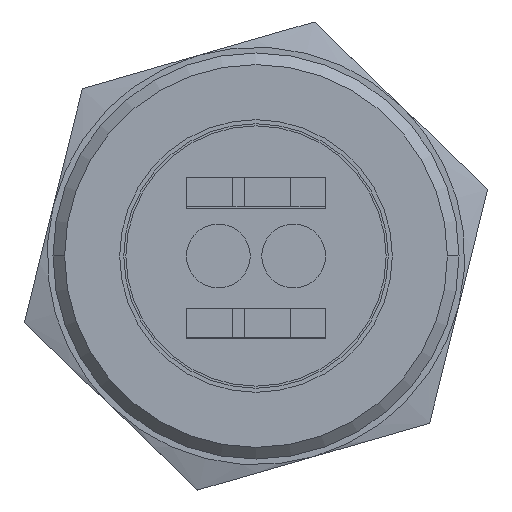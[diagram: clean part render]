
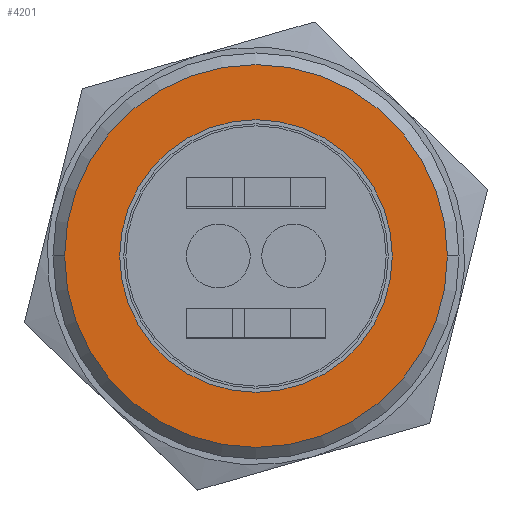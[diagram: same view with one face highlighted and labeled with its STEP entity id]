
A CAD part, front view. The second image highlights one B-rep face of the part: STEP entity #4201.
In plain terms, the highlighted planar face has unit normal (0, -1, 0) as drawn and (0, 1, 0) by its records, which use the part's own axes.
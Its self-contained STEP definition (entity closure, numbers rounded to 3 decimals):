
#3683=CARTESIAN_POINT('',(-16.5,7.5,0.));
#3684=VERTEX_POINT('',#3683);
#3700=CARTESIAN_POINT('',(16.5,7.5,0.));
#3701=VERTEX_POINT('',#3700);
#3708=CARTESIAN_POINT('',(0.0,7.5,0.0));
#3709=DIRECTION('',(0.0,-1.0,0.0));
#3710=DIRECTION('',(-1.0,0.0,0.0));
#3711=AXIS2_PLACEMENT_3D('',#3708,#3709,#3710);
#3712=CIRCLE('',#3711,16.5);
#3713=EDGE_CURVE('',#3701,#3684,#3712,.T.);
#3877=CARTESIAN_POINT('',(11.75,7.5,0.0));
#3878=VERTEX_POINT('',#3877);
#3887=CARTESIAN_POINT('',(-11.75,7.5,0.));
#3888=VERTEX_POINT('',#3887);
#3889=CARTESIAN_POINT('',(0.0,7.5,0.0));
#3890=DIRECTION('',(0.0,-1.0,0.0));
#3891=DIRECTION('',(1.0,0.0,0.0));
#3892=AXIS2_PLACEMENT_3D('',#3889,#3890,#3891);
#3893=CIRCLE('',#3892,11.75);
#3894=EDGE_CURVE('',#3888,#3878,#3893,.T.);
#4028=CARTESIAN_POINT('',(0.0,7.5,0.0));
#4029=DIRECTION('',(0.0,-1.0,0.0));
#4030=DIRECTION('',(1.0,0.0,0.0));
#4031=AXIS2_PLACEMENT_3D('',#4028,#4029,#4030);
#4032=CIRCLE('',#4031,11.75);
#4033=EDGE_CURVE('',#3878,#3888,#4032,.T.);
#4176=CARTESIAN_POINT('',(0.0,7.5,0.0));
#4177=DIRECTION('',(0.0,-1.0,0.0));
#4178=DIRECTION('',(-1.0,0.0,0.0));
#4179=AXIS2_PLACEMENT_3D('',#4176,#4177,#4178);
#4180=CIRCLE('',#4179,16.5);
#4181=EDGE_CURVE('',#3684,#3701,#4180,.T.);
#4188=CARTESIAN_POINT('',(0.0,7.5,0.0));
#4189=DIRECTION('',(0.0,-1.0,0.0));
#4190=DIRECTION('',(0.0,0.0,-1.0));
#4191=AXIS2_PLACEMENT_3D('',#4188,#4189,#4190);
#4192=PLANE('',#4191);
#4193=ORIENTED_EDGE('',*,*,#3713,.F.);
#4194=ORIENTED_EDGE('',*,*,#4181,.F.);
#4195=EDGE_LOOP('',(#4193,#4194));
#4196=FACE_OUTER_BOUND('',#4195,.T.);
#4197=ORIENTED_EDGE('',*,*,#4033,.T.);
#4198=ORIENTED_EDGE('',*,*,#3894,.T.);
#4199=EDGE_LOOP('',(#4197,#4198));
#4200=FACE_BOUND('',#4199,.T.);
#4201=ADVANCED_FACE('',(#4196,#4200),#4192,.F.);
